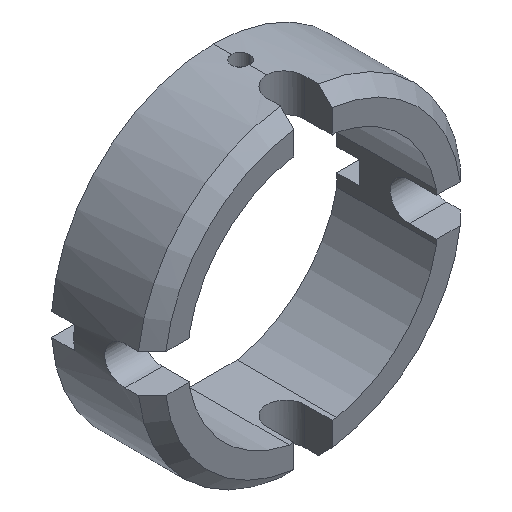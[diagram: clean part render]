
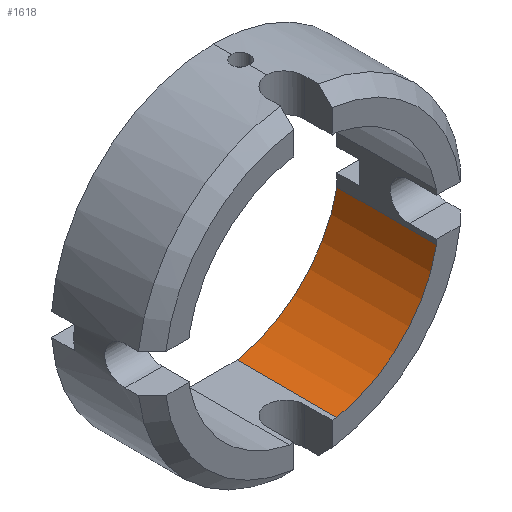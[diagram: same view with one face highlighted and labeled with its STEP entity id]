
A CAD part, isometric view. The second image highlights one B-rep face of the part: STEP entity #1618.
In plain terms, the highlighted cylindrical face has radius 27.75 mm (diameter 55.5 mm), a partial arc.
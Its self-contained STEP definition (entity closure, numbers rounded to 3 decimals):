
#39 = CARTESIAN_POINT ( 'NONE',  ( 0., 22., 0. ) ) ;
#95 = DIRECTION ( 'NONE',  ( 0., 0., 1. ) ) ;
#350 = CARTESIAN_POINT ( 'NONE',  ( 27.25, 0., -5.244 ) ) ;
#420 = CARTESIAN_POINT ( 'NONE',  ( 0., 0., 0. ) ) ;
#449 = CIRCLE ( 'NONE', #810, 27.75 ) ;
#471 = VECTOR ( 'NONE', #637, 1000. ) ;
#637 = DIRECTION ( 'NONE',  ( 0., -1., 0. ) ) ;
#665 = DIRECTION ( 'NONE',  ( 0., 0., 1. ) ) ;
#725 = DIRECTION ( 'NONE',  ( 0., 1., 0. ) ) ;
#810 = AXIS2_PLACEMENT_3D ( 'NONE', #39, #725, #665 ) ;
#820 = DIRECTION ( 'NONE',  ( 0., -1., 0. ) ) ;
#886 = CIRCLE ( 'NONE', #3326, 27.75 ) ;
#1014 = CARTESIAN_POINT ( 'NONE',  ( 5.244, 0., -27.25 ) ) ;
#1234 = AXIS2_PLACEMENT_3D ( 'NONE', #1926, #3279, #3300 ) ;
#1618 = ADVANCED_FACE ( 'NONE', ( #2582 ), #2560, .F. ) ;
#1687 = CARTESIAN_POINT ( 'NONE',  ( 5.244, 22., -27.25 ) ) ;
#1753 = ORIENTED_EDGE ( 'NONE', *, *, #2081, .T. ) ;
#1786 = LINE ( 'NONE', #2796, #2406 ) ;
#1926 = CARTESIAN_POINT ( 'NONE',  ( 0., 22., 0. ) ) ;
#1931 = EDGE_CURVE ( 'NONE', #2710, #4121, #1786, .T. ) ;
#2081 = EDGE_CURVE ( 'NONE', #2686, #2397, #2522, .T. ) ;
#2397 = VERTEX_POINT ( 'NONE', #1014 ) ;
#2406 = VECTOR ( 'NONE', #820, 1000. ) ;
#2522 = LINE ( 'NONE', #3638, #471 ) ;
#2560 = CYLINDRICAL_SURFACE ( 'NONE', #1234, 27.75 ) ;
#2582 = FACE_OUTER_BOUND ( 'NONE', #4300, .T. ) ;
#2593 = ORIENTED_EDGE ( 'NONE', *, *, #1931, .F. ) ;
#2612 = ORIENTED_EDGE ( 'NONE', *, *, #4148, .T. ) ;
#2686 = VERTEX_POINT ( 'NONE', #1687 ) ;
#2710 = VERTEX_POINT ( 'NONE', #3691 ) ;
#2796 = CARTESIAN_POINT ( 'NONE',  ( 27.25, 22., -5.244 ) ) ;
#3095 = DIRECTION ( 'NONE',  ( 0., 1., 0. ) ) ;
#3117 = EDGE_CURVE ( 'NONE', #4121, #2397, #886, .T. ) ;
#3279 = DIRECTION ( 'NONE',  ( 0., -1., 0. ) ) ;
#3300 = DIRECTION ( 'NONE',  ( 0., 0., -1. ) ) ;
#3326 = AXIS2_PLACEMENT_3D ( 'NONE', #420, #3095, #95 ) ;
#3638 = CARTESIAN_POINT ( 'NONE',  ( 5.244, 22., -27.25 ) ) ;
#3691 = CARTESIAN_POINT ( 'NONE',  ( 27.25, 22., -5.244 ) ) ;
#4036 = ORIENTED_EDGE ( 'NONE', *, *, #3117, .F. ) ;
#4121 = VERTEX_POINT ( 'NONE', #350 ) ;
#4148 = EDGE_CURVE ( 'NONE', #2710, #2686, #449, .T. ) ;
#4300 = EDGE_LOOP ( 'NONE', ( #4036, #2593, #2612, #1753 ) ) ;
